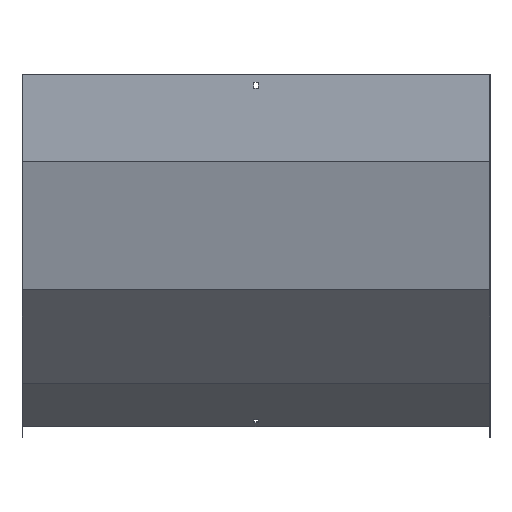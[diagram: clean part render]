
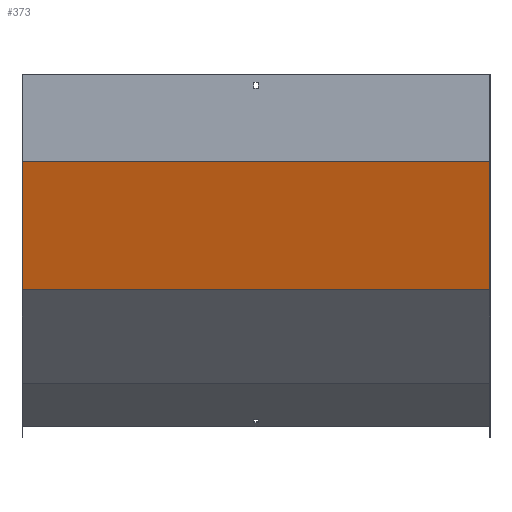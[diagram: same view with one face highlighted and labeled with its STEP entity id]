
A CAD part, front view. The second image highlights one B-rep face of the part: STEP entity #373.
In plain terms, the highlighted planar face has unit normal (0, -0.966, -0.259).
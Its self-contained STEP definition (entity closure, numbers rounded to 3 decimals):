
#27 = LINE ( 'NONE', #324, #821 ) ;
#45 = LINE ( 'NONE', #181, #518 ) ;
#70 = EDGE_CURVE ( 'NONE', #775, #350, #27, .T. ) ;
#91 = VERTEX_POINT ( 'NONE', #594 ) ;
#113 = DIRECTION ( 'NONE',  ( -1., 0., 0. ) ) ;
#132 = LINE ( 'NONE', #504, #530 ) ;
#136 = AXIS2_PLACEMENT_3D ( 'NONE', #569, #889, #151 ) ;
#139 = CARTESIAN_POINT ( 'NONE',  ( -350., 50.16, -322.996 ) ) ;
#143 = EDGE_CURVE ( 'NONE', #482, #91, #690, .T. ) ;
#151 = DIRECTION ( 'NONE',  ( 0., -0.259, 0.966 ) ) ;
#153 = CARTESIAN_POINT ( 'NONE',  ( 350., -33.949, -9.097 ) ) ;
#178 = ORIENTED_EDGE ( 'NONE', *, *, #143, .F. ) ;
#181 = CARTESIAN_POINT ( 'NONE',  ( 351.5, 50.16, -322.996 ) ) ;
#192 = CARTESIAN_POINT ( 'NONE',  ( -350., -1.5, -130.197 ) ) ;
#294 = DIRECTION ( 'NONE',  ( -1., 0., 0. ) ) ;
#299 = ORIENTED_EDGE ( 'NONE', *, *, #70, .T. ) ;
#324 = CARTESIAN_POINT ( 'NONE',  ( -350., -33.949, -9.097 ) ) ;
#350 = VERTEX_POINT ( 'NONE', #139 ) ;
#354 = FACE_OUTER_BOUND ( 'NONE', #555, .T. ) ;
#373 = ADVANCED_FACE ( 'NONE', ( #354 ), #659, .F. ) ;
#458 = ORIENTED_EDGE ( 'NONE', *, *, #656, .T. ) ;
#482 = VERTEX_POINT ( 'NONE', #538 ) ;
#504 = CARTESIAN_POINT ( 'NONE',  ( 351.5, -1.5, -130.197 ) ) ;
#518 = VECTOR ( 'NONE', #113, 1000. ) ;
#530 = VECTOR ( 'NONE', #294, 1000. ) ;
#538 = CARTESIAN_POINT ( 'NONE',  ( 350., -1.5, -130.197 ) ) ;
#555 = EDGE_LOOP ( 'NONE', ( #299, #876, #178, #458 ) ) ;
#569 = CARTESIAN_POINT ( 'NONE',  ( 351.5, -1.449, -130.388 ) ) ;
#594 = CARTESIAN_POINT ( 'NONE',  ( 350., 50.16, -322.996 ) ) ;
#648 = VECTOR ( 'NONE', #763, 1000. ) ;
#656 = EDGE_CURVE ( 'NONE', #482, #775, #132, .T. ) ;
#659 = PLANE ( 'NONE',  #136 ) ;
#690 = LINE ( 'NONE', #153, #648 ) ;
#763 = DIRECTION ( 'NONE',  ( 0., 0.259, -0.966 ) ) ;
#775 = VERTEX_POINT ( 'NONE', #192 ) ;
#783 = DIRECTION ( 'NONE',  ( 0., 0.259, -0.966 ) ) ;
#806 = EDGE_CURVE ( 'NONE', #91, #350, #45, .T. ) ;
#821 = VECTOR ( 'NONE', #783, 1000. ) ;
#876 = ORIENTED_EDGE ( 'NONE', *, *, #806, .F. ) ;
#889 = DIRECTION ( 'NONE',  ( 0., 0.966, 0.259 ) ) ;
